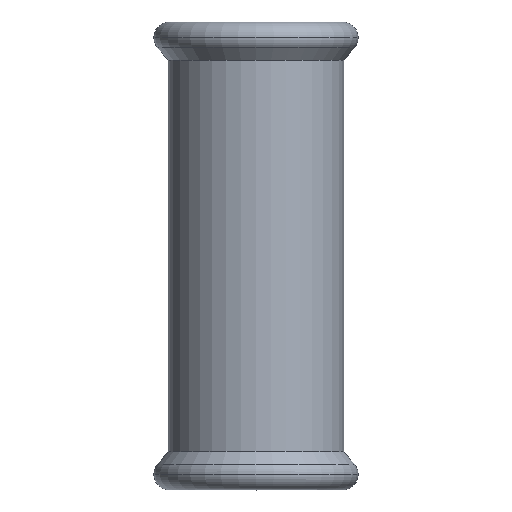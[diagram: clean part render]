
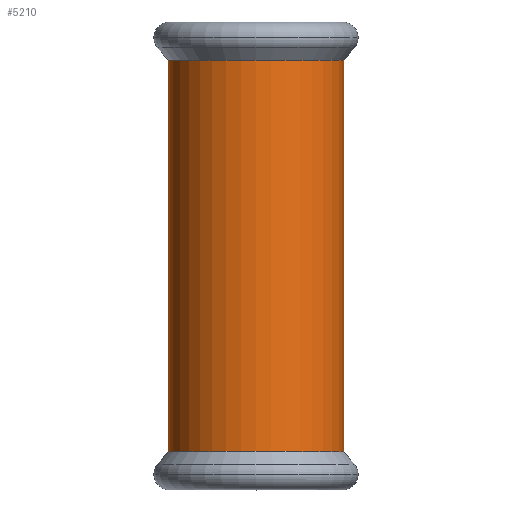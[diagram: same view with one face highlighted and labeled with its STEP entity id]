
A CAD part, top view. The second image highlights one B-rep face of the part: STEP entity #5210.
In plain terms, the highlighted cylindrical face has radius 19.15 mm (diameter 38.3 mm), a partial arc.
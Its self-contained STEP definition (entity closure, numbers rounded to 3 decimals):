
#1120=CARTESIAN_POINT('',(-269.361,214.189,0.));
#1130=VERTEX_POINT('',#1120);
#1310=CARTESIAN_POINT('',(-307.661,214.189,
0.));
#1320=VERTEX_POINT('',#1310);
#1350=CARTESIAN_POINT('',(-288.511,214.189,0.));
#1360=DIRECTION('',(0.,1.,0.));
#1370=DIRECTION('',(-1.,0.,0.));
#1380=AXIS2_PLACEMENT_3D('',#1350,#1360,#1370);
#1390=CIRCLE('',#1380,19.15);
#1450=CARTESIAN_POINT('',(-288.511,204.782,0.));
#1460=DIRECTION('',(0.,-1.,0.));
#1470=DIRECTION('',(-1.,0.,0.));
#1480=AXIS2_PLACEMENT_3D('',#1450,#1460,#1470);
#1490=CYLINDRICAL_SURFACE('',#1480,19.15);
#1500=CARTESIAN_POINT('',(-269.361,204.782,
0.));
#1510=DIRECTION('',(0.,-1.,0.));
#1520=VECTOR('',#1510,1.);
#1530=LINE('',#1500,#1520);
#1540=CARTESIAN_POINT('',(-269.361,128.855,
0.));
#1550=VERTEX_POINT('',#1540);
#1560=EDGE_CURVE('',#1130,#1550,#1530,.T.);
#1590=CARTESIAN_POINT('',(-307.661,204.782,0.));
#1600=DIRECTION('',(0.,-1.,0.));
#1610=VECTOR('',#1600,1.);
#1620=LINE('',#1590,#1610);
#1630=CARTESIAN_POINT('',(-307.661,128.855,0.));
#1640=VERTEX_POINT('',#1630);
#1650=EDGE_CURVE('',#1320,#1640,#1620,.T.);
#1670=CARTESIAN_POINT('',(-288.511,128.855,0.));
#1680=DIRECTION('',(0.,-1.,0.));
#1690=DIRECTION('',(1.,0.,0.));
#1700=AXIS2_PLACEMENT_3D('',#1670,#1680,#1690);
#1710=CIRCLE('',#1700,19.15);
#5130=EDGE_CURVE('',#1320,#1130,#1390,.T.);
#5140=ORIENTED_EDGE('',*,*,#5130,.F.);
#5150=ORIENTED_EDGE('',*,*,#1560,.F.);
#5160=EDGE_CURVE('',#1550,#1640,#1710,.T.);
#5170=ORIENTED_EDGE('',*,*,#5160,.F.);
#5180=ORIENTED_EDGE('',*,*,#1650,.T.);
#5190=EDGE_LOOP('',(#5180,#5170,#5150,#5140));
#5200=FACE_OUTER_BOUND('',#5190,.T.);
#5210=ADVANCED_FACE('',(#5200),#1490,.T.);
